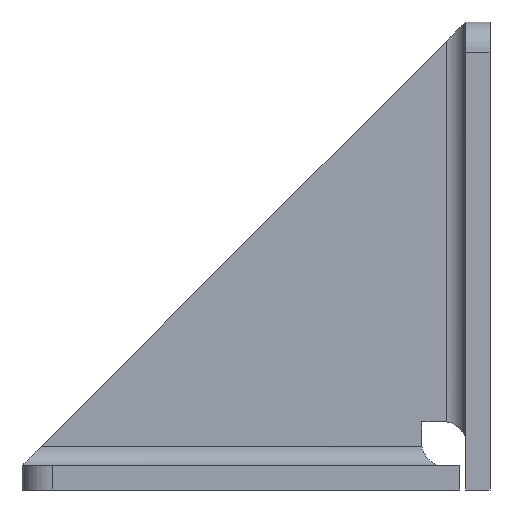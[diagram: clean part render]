
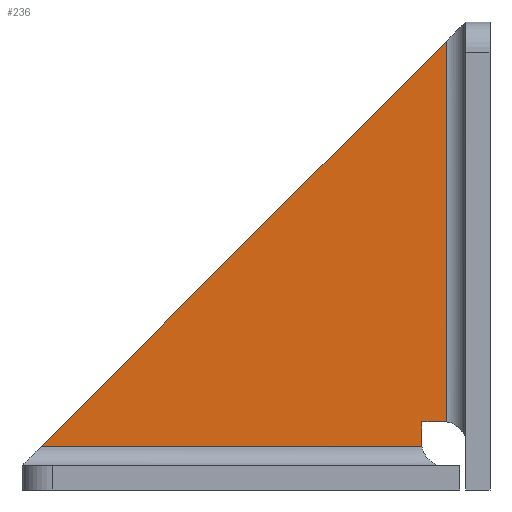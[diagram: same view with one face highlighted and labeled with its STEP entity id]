
A CAD part, left-side view. The second image highlights one B-rep face of the part: STEP entity #236.
In plain terms, the highlighted planar face has unit normal (-1, 0, 0).
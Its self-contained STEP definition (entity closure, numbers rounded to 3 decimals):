
#29 = VECTOR ( 'NONE', #227, 1000. ) ;
#98 = LINE ( 'NONE', #804, #836 ) ;
#102 = CARTESIAN_POINT ( 'NONE',  ( 5.135, 0., 5.6 ) ) ;
#109 = DIRECTION ( 'NONE',  ( 0., -1., 0. ) ) ;
#136 = LINE ( 'NONE', #102, #581 ) ;
#165 = EDGE_LOOP ( 'NONE', ( #762, #940, #988, #1071, #254 ) ) ;
#227 = DIRECTION ( 'NONE',  ( 0., -0.707, 0.707 ) ) ;
#236 = ADVANCED_FACE ( 'NONE', ( #1067 ), #738, .T. ) ;
#254 = ORIENTED_EDGE ( 'NONE', *, *, #1022, .T. ) ;
#271 = LINE ( 'NONE', #582, #29 ) ;
#279 = VERTEX_POINT ( 'NONE', #288 ) ;
#288 = CARTESIAN_POINT ( 'NONE',  ( 5.135, -22.911, 3.6 ) ) ;
#290 = VECTOR ( 'NONE', #891, 1000. ) ;
#359 = VERTEX_POINT ( 'NONE', #974 ) ;
#374 = DIRECTION ( 'NONE',  ( 0., -1., 0. ) ) ;
#419 = DIRECTION ( 'NONE',  ( 0., 0., 1. ) ) ;
#425 = DIRECTION ( 'NONE',  ( -1., 0., 0. ) ) ;
#451 = EDGE_CURVE ( 'NONE', #798, #478, #271, .T. ) ;
#478 = VERTEX_POINT ( 'NONE', #1025 ) ;
#578 = CARTESIAN_POINT ( 'NONE',  ( 5.135, -24.911, 5.6 ) ) ;
#581 = VECTOR ( 'NONE', #639, 1000. ) ;
#582 = CARTESIAN_POINT ( 'NONE',  ( 5.135, -26.511, 38.5 ) ) ;
#639 = DIRECTION ( 'NONE',  ( 0., -1., 0. ) ) ;
#650 = EDGE_CURVE ( 'NONE', #279, #359, #98, .T. ) ;
#738 = PLANE ( 'NONE',  #1013 ) ;
#762 = ORIENTED_EDGE ( 'NONE', *, *, #451, .F. ) ;
#784 = EDGE_CURVE ( 'NONE', #798, #279, #1088, .T. ) ;
#789 = LINE ( 'NONE', #810, #290 ) ;
#798 = VERTEX_POINT ( 'NONE', #997 ) ;
#804 = CARTESIAN_POINT ( 'NONE',  ( 5.135, -22.911, 0. ) ) ;
#810 = CARTESIAN_POINT ( 'NONE',  ( 5.135, -24.911, 0. ) ) ;
#818 = CARTESIAN_POINT ( 'NONE',  ( 5.135, -22.911, 3.6 ) ) ;
#829 = VECTOR ( 'NONE', #109, 1000. ) ;
#836 = VECTOR ( 'NONE', #419, 1000. ) ;
#891 = DIRECTION ( 'NONE',  ( 0., 0., 1. ) ) ;
#940 = ORIENTED_EDGE ( 'NONE', *, *, #784, .T. ) ;
#941 = EDGE_CURVE ( 'NONE', #359, #956, #136, .T. ) ;
#955 = CARTESIAN_POINT ( 'NONE',  ( 5.135, 0., 0. ) ) ;
#956 = VERTEX_POINT ( 'NONE', #578 ) ;
#974 = CARTESIAN_POINT ( 'NONE',  ( 5.135, -22.911, 5.6 ) ) ;
#988 = ORIENTED_EDGE ( 'NONE', *, *, #650, .T. ) ;
#997 = CARTESIAN_POINT ( 'NONE',  ( 5.135, 8.389, 3.6 ) ) ;
#1013 = AXIS2_PLACEMENT_3D ( 'NONE', #955, #425, #374 ) ;
#1022 = EDGE_CURVE ( 'NONE', #956, #478, #789, .T. ) ;
#1025 = CARTESIAN_POINT ( 'NONE',  ( 5.135, -24.911, 36.9 ) ) ;
#1067 = FACE_OUTER_BOUND ( 'NONE', #165, .T. ) ;
#1071 = ORIENTED_EDGE ( 'NONE', *, *, #941, .T. ) ;
#1088 = LINE ( 'NONE', #818, #829 ) ;
